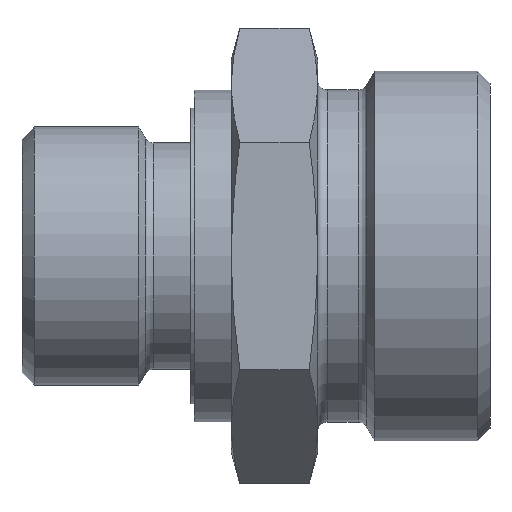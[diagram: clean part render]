
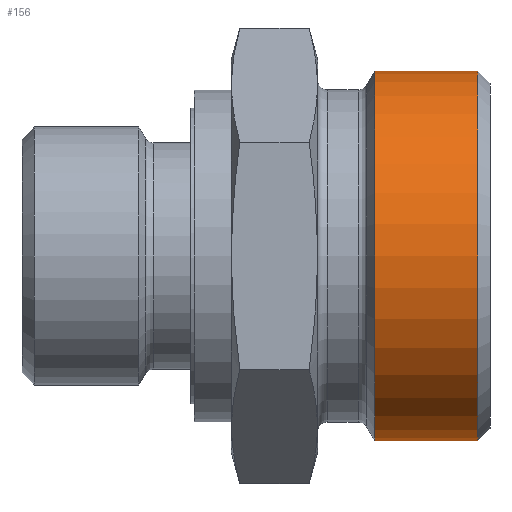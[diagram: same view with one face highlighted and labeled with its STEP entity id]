
A CAD part, front view. The second image highlights one B-rep face of the part: STEP entity #156.
In plain terms, the highlighted cylindrical face has radius 15 mm (diameter 30 mm), a full revolution.
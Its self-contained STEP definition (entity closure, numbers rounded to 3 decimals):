
#156 = ADVANCED_FACE( '', ( #317, #318 ), #319, .T. );
#317 = FACE_OUTER_BOUND( '', #477, .T. );
#318 = FACE_OUTER_BOUND( '', #478, .T. );
#319 = CYLINDRICAL_SURFACE( '', #479, 15. );
#477 = EDGE_LOOP( '', ( #696 ) );
#478 = EDGE_LOOP( '', ( #697 ) );
#479 = AXIS2_PLACEMENT_3D( '', #698, #699, #700 );
#696 = ORIENTED_EDGE( '', *, *, #844, .T. );
#697 = ORIENTED_EDGE( '', *, *, #845, .F. );
#698 = CARTESIAN_POINT( '', ( -60., 0., 0. ) );
#699 = DIRECTION( '', ( 1., 0., 0. ) );
#700 = DIRECTION( '', ( 0., 0., 1. ) );
#844 = EDGE_CURVE( '', #970, #970, #971, .T. );
#845 = EDGE_CURVE( '', #972, #972, #973, .T. );
#970 = VERTEX_POINT( '', #1204 );
#971 = CIRCLE( '', #1205, 15. );
#972 = VERTEX_POINT( '', #1206 );
#973 = CIRCLE( '', #1207, 15. );
#1204 = CARTESIAN_POINT( '', ( -1., 0., 15. ) );
#1205 = AXIS2_PLACEMENT_3D( '', #1312, #1313, #1314 );
#1206 = CARTESIAN_POINT( '', ( -9.365, 0., 15. ) );
#1207 = AXIS2_PLACEMENT_3D( '', #1315, #1316, #1317 );
#1312 = CARTESIAN_POINT( '', ( -1., 0., 0. ) );
#1313 = DIRECTION( '', ( -1., 0., 0. ) );
#1314 = DIRECTION( '', ( 0., 0., 1. ) );
#1315 = CARTESIAN_POINT( '', ( -9.365, 0., 0. ) );
#1316 = DIRECTION( '', ( -1., 0., 0. ) );
#1317 = DIRECTION( '', ( 0., 0., 1. ) );
